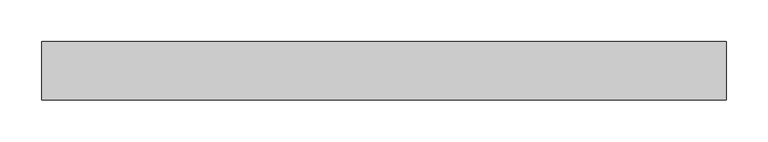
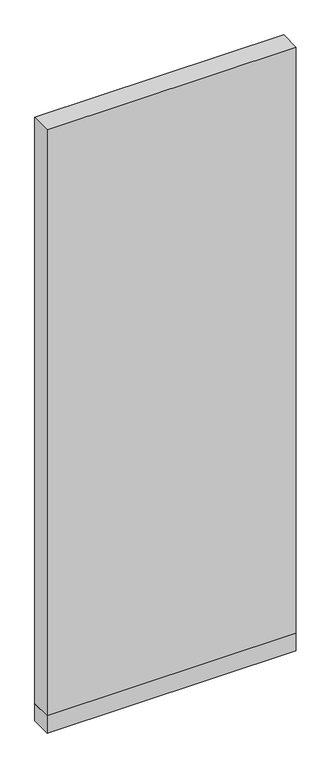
"""IFC4 building model written with IfcOpenShell, lengths in millimetres: plate geometry, 営_パーティションパネル_下部 : パーティションパネル_下部."""

import ifcopenshell
import ifcopenshell.guid

model = None  # the IFC model being written
_history = None  # IfcOwnerHistory: only IFC2X3 demands one
_inside = {}  # id of a spatial element -> (the spatial element, [elements in it])
_under = {}  # id of a project, library or spatial element -> (it, [spatial elements below it])
_declared = {}  # id of a project -> (the project, [libraries it declares])
_typed = {}  # id of a type object -> (the type object, [elements of that type])
_made_of = {}  # id of a material, layer set ... -> (it, [elements and type objects made of it])


def new_model(schema):
    """Start an empty IFC model of exactly this schema.

    Asked for "IFC4X3", IfcOpenShell would pick the latest addendum, in which some entities
    have other attributes; the version numbers below select the first issue.
    IFC2X3 requires an IfcOwnerHistory on every rooted entity: one is made here for all.
    """
    global model, _history
    if schema == "IFC4X3":
        model = ifcopenshell.file(schema_version=(4, 3, 0, 0))
    else:
        model = ifcopenshell.file(schema=schema)
    _inside.clear()
    _under.clear()
    _declared.clear()
    _typed.clear()
    _made_of.clear()
    _history = None
    if model.schema == "IFC2X3":
        org = make("IfcOrganization", Name="unknown")
        user = make(
            "IfcPersonAndOrganization",
            ThePerson=make("IfcPerson", FamilyName="unknown"),
            TheOrganization=org,
        )
        app = make(
            "IfcApplication",
            ApplicationDeveloper=org,
            Version="unknown",
            ApplicationFullName="unknown",
            ApplicationIdentifier="unknown",
        )
        _history = make(
            "IfcOwnerHistory",
            OwningUser=user,
            OwningApplication=app,
            ChangeAction="ADDED",
            CreationDate=0,
        )
    return model


def make(cls, **values):
    """One entity of the class cls with the attributes given. An attribute that is None is left unset."""
    return model.create_entity(
        cls, **{name: value for name, value in values.items() if value is not None}
    )


def rooted(cls, **values):
    """An entity with a GlobalId (a new one), such as an element, a storey or a relation."""
    return make(cls, GlobalId=ifcopenshell.guid.new(), OwnerHistory=_history, **values)


def si_unit(unit_type, name, prefix=None):
    """IfcSIUnit, for example si_unit("LENGTHUNIT", "METRE", prefix="MILLI")."""
    return make("IfcSIUnit", UnitType=unit_type, Prefix=prefix, Name=name)


def assignment(units):
    """IfcUnitAssignment: the units of a project."""
    return None if units is None else make("IfcUnitAssignment", Units=units)


def point(xyz):
    """IfcCartesianPoint."""
    return None if xyz is None else make("IfcCartesianPoint", Coordinates=xyz)


def direction(xyz):
    """IfcDirection."""
    return None if xyz is None else make("IfcDirection", DirectionRatios=xyz)


def frame(location, z_axis=None, x_axis=None):
    """IfcAxis2Placement3D, a coordinate frame: its origin and axes. An axis left out is left unset."""
    return make(
        "IfcAxis2Placement3D",
        Location=point(location),
        Axis=direction(z_axis),
        RefDirection=direction(x_axis),
    )


def origin():
    """The frame at (0, 0, 0) with its axes left unset."""
    return frame((0.0, 0.0, 0.0))


def origin_with_axes():
    """The frame at (0, 0, 0) with the z axis (0, 0, 1) and the x axis (1, 0, 0) written out."""
    return frame((0.0, 0.0, 0.0), z_axis=(0.0, 0.0, 1.0), x_axis=(1.0, 0.0, 0.0))


def place(relative_to, where):
    """IfcLocalPlacement: puts the frame where relative to a parent placement (None: the world)."""
    return make(
        "IfcLocalPlacement", PlacementRelTo=relative_to, RelativePlacement=where
    )


def context(
    kind, dimensions, precision=None, world=None, true_north=None, identifier=None
):
    """IfcGeometricRepresentationContext, for example the 3D "Model" context."""
    return make(
        "IfcGeometricRepresentationContext",
        ContextIdentifier=identifier,
        ContextType=kind,
        CoordinateSpaceDimension=dimensions,
        Precision=precision,
        WorldCoordinateSystem=world,
        TrueNorth=true_north,
    )


def project(units=None, contexts=None):
    """IfcProject with its units and contexts."""
    return rooted(
        "IfcProject",
        Name="project",
        RepresentationContexts=contexts,
        UnitsInContext=assignment(units),
    )


def spatial(cls, under=None, at=None, **own):
    """A site, building, storey or space (cls), placed at a placement, below another one or the project."""
    s = rooted(cls, ObjectPlacement=at, **own)
    if under is not None:
        _under.setdefault(under.id(), (under, []))[1].append(s)
    return s


def polyline(points):
    """IfcPolyline through the points."""
    return make("IfcPolyline", Points=[point(p) for p in points])


def outline(outer, holes=None, kind="AREA"):
    """IfcArbitraryClosedProfileDef: a profile drawn as a closed curve; with holes, ...WithVoids."""
    if holes is None:
        return make("IfcArbitraryClosedProfileDef", ProfileType=kind, OuterCurve=outer)
    return make(
        "IfcArbitraryProfileDefWithVoids",
        ProfileType=kind,
        OuterCurve=outer,
        InnerCurves=holes,
    )


def extrude(swept, where, along, depth):
    """IfcExtrudedAreaSolid: the profile swept, set in the frame where, extruded along a direction by depth."""
    return make(
        "IfcExtrudedAreaSolid",
        SweptArea=swept,
        Position=where,
        ExtrudedDirection=direction(along),
        Depth=depth,
    )


def shape(context_of_items, identifier, shape_type, items):
    """IfcShapeRepresentation: the items that make up one representation, for example the "Body"."""
    return make(
        "IfcShapeRepresentation",
        ContextOfItems=context_of_items,
        RepresentationIdentifier=identifier,
        RepresentationType=shape_type,
        Items=items,
    )


def source(mapping_origin, context_of_items, identifier, shape_type, items):
    """IfcRepresentationMap: a shape defined once, which mapped items show again and again."""
    return make(
        "IfcRepresentationMap",
        MappingOrigin=mapping_origin,
        MappedRepresentation=shape(context_of_items, identifier, shape_type, items),
    )


def transform(
    local_origin,
    x_axis=None,
    y_axis=None,
    z_axis=None,
    scale=None,
    scale2=None,
    scale3=None,
    uniform=True,
):
    """IfcCartesianTransformationOperator3D, or its non-uniform kind. x_axis, y_axis, z_axis: its Axis1, 2, 3."""
    if uniform:
        return make(
            "IfcCartesianTransformationOperator3D",
            Axis1=direction(x_axis),
            Axis2=direction(y_axis),
            LocalOrigin=point(local_origin),
            Scale=scale,
            Axis3=direction(z_axis),
        )
    return make(
        "IfcCartesianTransformationOperator3DnonUniform",
        Axis1=direction(x_axis),
        Axis2=direction(y_axis),
        LocalOrigin=point(local_origin),
        Scale=scale,
        Axis3=direction(z_axis),
        Scale2=scale2,
        Scale3=scale3,
    )


def mapped(mapping_source, mapping_target):
    """IfcMappedItem: shows the shape of a source again, moved by a transform."""
    return make(
        "IfcMappedItem", MappingSource=mapping_source, MappingTarget=mapping_target
    )


def made_of(thing, what):
    """Note that an element or type object is made of a material, layer set ...; save() writes the relation."""
    if what is not None:
        _made_of.setdefault(what.id(), (what, []))[1].append(thing)
    return thing


def element(
    cls,
    number,
    at=None,
    inside=None,
    cuts=None,
    type_object=None,
    material=None,
    context=None,
    identifier="Body",
    shape_type=None,
    held_by="IfcProductDefinitionShape",
    body=None,
    shapes=None,
    **own,
):
    """One element of the class cls, such as IfcWall. Its Tag is "e" and its number.

    at: its placement. inside: the storey or other place that contains it. cuts: it is an
    opening in that element (IfcRelVoidsElement). A single representation is given by context,
    identifier, shape_type and body (its items); several are given by shapes. held_by: the class
    of the entity that holds the representations. save() writes the other relations.
    """
    e = rooted(cls, Tag="e%d" % number, ObjectPlacement=at, **own)
    if body is not None:
        shapes = [shape(context, identifier, shape_type, body)]
    if shapes is not None:
        e.Representation = make(held_by, Representations=shapes)
    if inside is not None:
        _inside.setdefault(inside.id(), (inside, []))[1].append(e)
    if cuts is not None:
        rooted(
            "IfcRelVoidsElement", RelatingBuildingElement=cuts, RelatedOpeningElement=e
        )
    if type_object is not None:
        _typed.setdefault(type_object.id(), (type_object, []))[1].append(e)
    return made_of(e, material)


def aggregate(whole, parts):
    """IfcRelAggregates: a whole, such as a stair, and the parts it consists of."""
    return rooted("IfcRelAggregates", RelatingObject=whole, RelatedObjects=parts)


def save(model, path):
    """Write the relations noted so far, then the file.

    IfcRelAggregates (storeys below a building ...), IfcRelContainedInSpatialStructure (elements
    in a storey), IfcRelDefinesByType, IfcRelAssociatesMaterial and IfcRelDeclares: one each for
    every whole, place, type object, material and project.
    """
    for whole, parts in _under.values():
        aggregate(whole, parts)
    for where, things in _inside.values():
        rooted(
            "IfcRelContainedInSpatialStructure",
            RelatedElements=things,
            RelatingStructure=where,
        )
    for kind, things in _typed.values():
        rooted("IfcRelDefinesByType", RelatedObjects=things, RelatingType=kind)
    for what, things in _made_of.values():
        rooted("IfcRelAssociatesMaterial", RelatedObjects=things, RelatingMaterial=what)
    for by, libraries in _declared.values():
        rooted("IfcRelDeclares", RelatingContext=by, RelatedDefinitions=libraries)
    model.write(path)


def plate_b9e99dd6(model_context):
    return source(origin(), model_context, "Body", "SweptSolid", [
        extrude(outline(polyline([(-410.0000002, -35.0), (-410.0000002, 35.0), (410.0000002, 35.0), (410.0000002, -35.0), (-410.0000002, -35.0)])), origin_with_axes(), (0.0, 0.0, 1.0), 60.0),
        extrude(outline(polyline([(-410.0000002, -35.0), (-410.0000002, 35.0), (410.0000002, 35.0), (410.0000002, -35.0), (-410.0000002, -35.0)])), frame((0.0, 0.0, 60.0), z_axis=(0.0, 0.0, 1.0), x_axis=(1.0, 0.0, 0.0)), (0.0, 0.0, 1.0), 2040.0),
    ])


if __name__ == "__main__":
    model = new_model("IFC4")
    model_context = context("Model", 3, world=origin())
    ifc_project = project(units=[si_unit("LENGTHUNIT", "METRE", prefix="MILLI")], contexts=[model_context])
    site = spatial("IfcSite", under=ifc_project)
    building = spatial("IfcBuilding", under=site)
    placement = place(None, origin())
    plate_shape = plate_b9e99dd6(model_context)
    element("IfcPlate", 1, ObjectType="営_パーティションパネル_下部 : パーティションパネル_下部", at=placement, inside=building, context=model_context, shape_type="MappedRepresentation", body=[
        mapped(plate_shape, transform((0.0, 0.0, 0.0), x_axis=(1.0, 0.0, 0.0), y_axis=(0.0, 1.0, 0.0), z_axis=(0.0, 0.0, 1.0))),
    ])
    save(model, "model.ifc")
